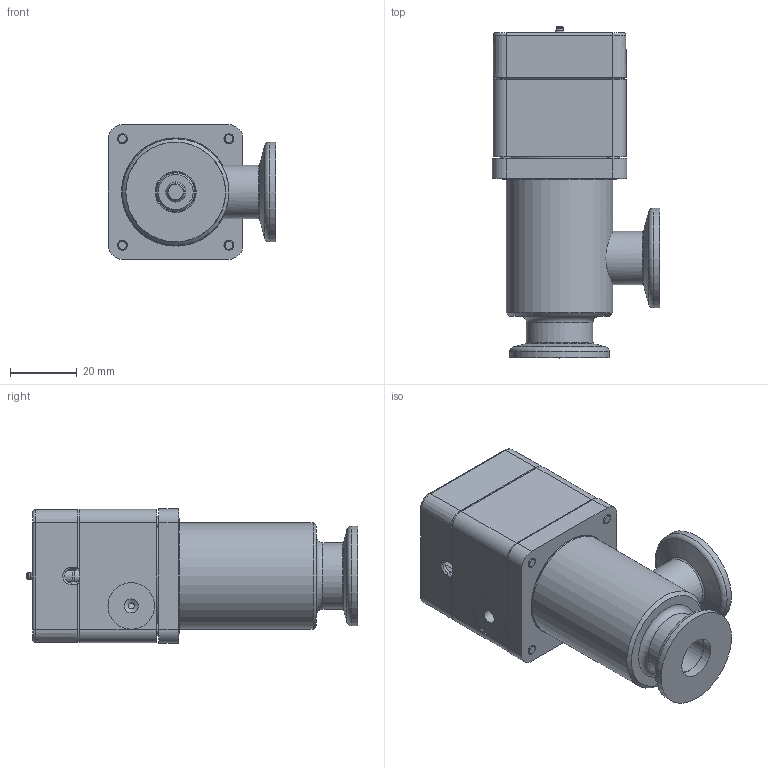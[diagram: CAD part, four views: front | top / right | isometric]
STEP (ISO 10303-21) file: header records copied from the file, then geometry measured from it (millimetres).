
FILE_DESCRIPTION(/* description */ (''),/* implementation_level */ '2;1');
FILE_NAME(/* name */ '1148335480_203.stp',/* time_stamp */ '2021-04-28T13:20:33+02:00',/* author */ (''),/* organization */ (''),/* preprocessor_version */ 'ST-DEVELOPER v16.7',/* originating_system */ 'SIEMENS PLM Software NX 1915',/* authorisation */ '');
FILE_SCHEMA (('AP203_CONFIGURATION_CONTROLLED_3D_DESIGN_OF_MECHANICAL_PARTS_AND_ASSEMBLIES_MIM_LF { 1 0 10303 403 2 1 2}'));
Length unit declared in the file: millimetre
Products named in the file (12): 346126.1; 245708.5; 346129.1; 236208.2; 233364; 236204_1.1; 234225.1; 228218.16; 230165.10; 346132.2; 402885_NX-ARRAGMNTLAGEMELDERZEICHNUNG; 384284
Assembly tree (17 placements, depth 3):
  384284
    230165.10  x2
    228218.16
    402885_NX-ARRAGMNTLAGEMELDERZEICHNUNG
      236204_1.1  x2
      233364
      236208.2  x2
    234225.1  x4
    346132.2
      346129.1
      245708.5
      346126.1
Bounding box: 50.2 x 99.7 x 40.4 mm (x, y, z)
Volume: 59883.6 mm3; surface area: 45083.4 mm2
Topology: 15 solids, 15 shells, 582 faces, 1443 edges, 935 vertices
Faces by surface type: plane 321, cylinder 132, cone 77, torus 25, bspline 25, sphere 2
Full cylindrical faces by diameter (mm): 1.8 x1, 2 x8, 2.2 x4, 2.3 x2, 2.5 x2, 3 x12, 3.3 x4, 4 x2, 4.2 x1, 4.7 x2, 4.8 x2, 4.9 x2, 5.1 x2, 5.5 x4, 5.6 x2, 5.984 x6, 6 x1, 6.01 x2, 8.85 x1, 11.5 x1, 12 x3, 12.3 x2, 14 x1, 16 x1, 20 x1, 28 x1, 28.05 x1, 28.2 x1, 29.4 x1, 29.896 x1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
Entity records: 15082 total; most frequent: CARTESIAN_POINT 3018, DIRECTION 2225, ORIENTED_EDGE 2036, EDGE_CURVE 1018, AXIS2_PLACEMENT_3D 803, VERTEX_POINT 737, EDGE_LOOP 672, LINE 619
